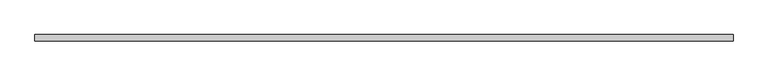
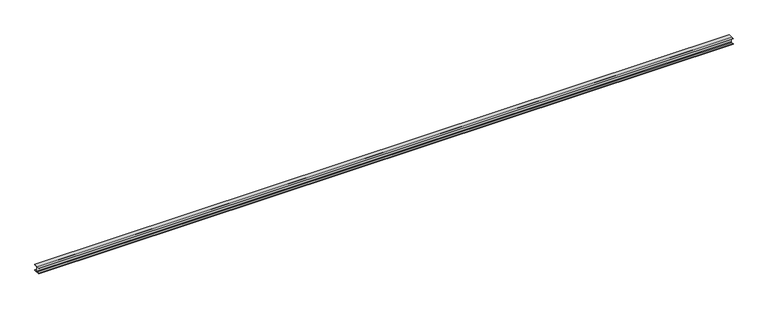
"""IFC4 building model written with IfcOpenShell, lengths in millimetres: beam geometry, Membrure Haute 37771 : Membrure Haute 37771."""

import ifcopenshell
import ifcopenshell.guid

model = None  # the IFC model being written
_history = None  # IfcOwnerHistory: only IFC2X3 demands one
_inside = {}  # id of a spatial element -> (the spatial element, [elements in it])
_under = {}  # id of a project, library or spatial element -> (it, [spatial elements below it])
_declared = {}  # id of a project -> (the project, [libraries it declares])
_typed = {}  # id of a type object -> (the type object, [elements of that type])
_made_of = {}  # id of a material, layer set ... -> (it, [elements and type objects made of it])


def new_model(schema):
    """Start an empty IFC model of exactly this schema.

    Asked for "IFC4X3", IfcOpenShell would pick the latest addendum, in which some entities
    have other attributes; the version numbers below select the first issue.
    IFC2X3 requires an IfcOwnerHistory on every rooted entity: one is made here for all.
    """
    global model, _history
    if schema == "IFC4X3":
        model = ifcopenshell.file(schema_version=(4, 3, 0, 0))
    else:
        model = ifcopenshell.file(schema=schema)
    _inside.clear()
    _under.clear()
    _declared.clear()
    _typed.clear()
    _made_of.clear()
    _history = None
    if model.schema == "IFC2X3":
        org = make("IfcOrganization", Name="unknown")
        user = make(
            "IfcPersonAndOrganization",
            ThePerson=make("IfcPerson", FamilyName="unknown"),
            TheOrganization=org,
        )
        app = make(
            "IfcApplication",
            ApplicationDeveloper=org,
            Version="unknown",
            ApplicationFullName="unknown",
            ApplicationIdentifier="unknown",
        )
        _history = make(
            "IfcOwnerHistory",
            OwningUser=user,
            OwningApplication=app,
            ChangeAction="ADDED",
            CreationDate=0,
        )
    return model


def make(cls, **values):
    """One entity of the class cls with the attributes given. An attribute that is None is left unset."""
    return model.create_entity(
        cls, **{name: value for name, value in values.items() if value is not None}
    )


def rooted(cls, **values):
    """An entity with a GlobalId (a new one), such as an element, a storey or a relation."""
    return make(cls, GlobalId=ifcopenshell.guid.new(), OwnerHistory=_history, **values)


def si_unit(unit_type, name, prefix=None):
    """IfcSIUnit, for example si_unit("LENGTHUNIT", "METRE", prefix="MILLI")."""
    return make("IfcSIUnit", UnitType=unit_type, Prefix=prefix, Name=name)


def assignment(units):
    """IfcUnitAssignment: the units of a project."""
    return None if units is None else make("IfcUnitAssignment", Units=units)


def point(xyz):
    """IfcCartesianPoint."""
    return None if xyz is None else make("IfcCartesianPoint", Coordinates=xyz)


def direction(xyz):
    """IfcDirection."""
    return None if xyz is None else make("IfcDirection", DirectionRatios=xyz)


def frame(location, z_axis=None, x_axis=None):
    """IfcAxis2Placement3D, a coordinate frame: its origin and axes. An axis left out is left unset."""
    return make(
        "IfcAxis2Placement3D",
        Location=point(location),
        Axis=direction(z_axis),
        RefDirection=direction(x_axis),
    )


def origin():
    """The frame at (0, 0, 0) with its axes left unset."""
    return frame((0.0, 0.0, 0.0))


def place(relative_to, where):
    """IfcLocalPlacement: puts the frame where relative to a parent placement (None: the world)."""
    return make(
        "IfcLocalPlacement", PlacementRelTo=relative_to, RelativePlacement=where
    )


def context(
    kind, dimensions, precision=None, world=None, true_north=None, identifier=None
):
    """IfcGeometricRepresentationContext, for example the 3D "Model" context."""
    return make(
        "IfcGeometricRepresentationContext",
        ContextIdentifier=identifier,
        ContextType=kind,
        CoordinateSpaceDimension=dimensions,
        Precision=precision,
        WorldCoordinateSystem=world,
        TrueNorth=true_north,
    )


def project(units=None, contexts=None):
    """IfcProject with its units and contexts."""
    return rooted(
        "IfcProject",
        Name="project",
        RepresentationContexts=contexts,
        UnitsInContext=assignment(units),
    )


def spatial(cls, under=None, at=None, **own):
    """A site, building, storey or space (cls), placed at a placement, below another one or the project."""
    s = rooted(cls, ObjectPlacement=at, **own)
    if under is not None:
        _under.setdefault(under.id(), (under, []))[1].append(s)
    return s


def polyline(points):
    """IfcPolyline through the points."""
    return make("IfcPolyline", Points=[point(p) for p in points])


def outline(outer, holes=None, kind="AREA"):
    """IfcArbitraryClosedProfileDef: a profile drawn as a closed curve; with holes, ...WithVoids."""
    if holes is None:
        return make("IfcArbitraryClosedProfileDef", ProfileType=kind, OuterCurve=outer)
    return make(
        "IfcArbitraryProfileDefWithVoids",
        ProfileType=kind,
        OuterCurve=outer,
        InnerCurves=holes,
    )


def extrude(swept, where, along, depth):
    """IfcExtrudedAreaSolid: the profile swept, set in the frame where, extruded along a direction by depth."""
    return make(
        "IfcExtrudedAreaSolid",
        SweptArea=swept,
        Position=where,
        ExtrudedDirection=direction(along),
        Depth=depth,
    )


def shape(context_of_items, identifier, shape_type, items):
    """IfcShapeRepresentation: the items that make up one representation, for example the "Body"."""
    return make(
        "IfcShapeRepresentation",
        ContextOfItems=context_of_items,
        RepresentationIdentifier=identifier,
        RepresentationType=shape_type,
        Items=items,
    )


def source(mapping_origin, context_of_items, identifier, shape_type, items):
    """IfcRepresentationMap: a shape defined once, which mapped items show again and again."""
    return make(
        "IfcRepresentationMap",
        MappingOrigin=mapping_origin,
        MappedRepresentation=shape(context_of_items, identifier, shape_type, items),
    )


def transform(
    local_origin,
    x_axis=None,
    y_axis=None,
    z_axis=None,
    scale=None,
    scale2=None,
    scale3=None,
    uniform=True,
):
    """IfcCartesianTransformationOperator3D, or its non-uniform kind. x_axis, y_axis, z_axis: its Axis1, 2, 3."""
    if uniform:
        return make(
            "IfcCartesianTransformationOperator3D",
            Axis1=direction(x_axis),
            Axis2=direction(y_axis),
            LocalOrigin=point(local_origin),
            Scale=scale,
            Axis3=direction(z_axis),
        )
    return make(
        "IfcCartesianTransformationOperator3DnonUniform",
        Axis1=direction(x_axis),
        Axis2=direction(y_axis),
        LocalOrigin=point(local_origin),
        Scale=scale,
        Axis3=direction(z_axis),
        Scale2=scale2,
        Scale3=scale3,
    )


def mapped(mapping_source, mapping_target):
    """IfcMappedItem: shows the shape of a source again, moved by a transform."""
    return make(
        "IfcMappedItem", MappingSource=mapping_source, MappingTarget=mapping_target
    )


def made_of(thing, what):
    """Note that an element or type object is made of a material, layer set ...; save() writes the relation."""
    if what is not None:
        _made_of.setdefault(what.id(), (what, []))[1].append(thing)
    return thing


def element(
    cls,
    number,
    at=None,
    inside=None,
    cuts=None,
    type_object=None,
    material=None,
    context=None,
    identifier="Body",
    shape_type=None,
    held_by="IfcProductDefinitionShape",
    body=None,
    shapes=None,
    **own,
):
    """One element of the class cls, such as IfcWall. Its Tag is "e" and its number.

    at: its placement. inside: the storey or other place that contains it. cuts: it is an
    opening in that element (IfcRelVoidsElement). A single representation is given by context,
    identifier, shape_type and body (its items); several are given by shapes. held_by: the class
    of the entity that holds the representations. save() writes the other relations.
    """
    e = rooted(cls, Tag="e%d" % number, ObjectPlacement=at, **own)
    if body is not None:
        shapes = [shape(context, identifier, shape_type, body)]
    if shapes is not None:
        e.Representation = make(held_by, Representations=shapes)
    if inside is not None:
        _inside.setdefault(inside.id(), (inside, []))[1].append(e)
    if cuts is not None:
        rooted(
            "IfcRelVoidsElement", RelatingBuildingElement=cuts, RelatedOpeningElement=e
        )
    if type_object is not None:
        _typed.setdefault(type_object.id(), (type_object, []))[1].append(e)
    return made_of(e, material)


def aggregate(whole, parts):
    """IfcRelAggregates: a whole, such as a stair, and the parts it consists of."""
    return rooted("IfcRelAggregates", RelatingObject=whole, RelatedObjects=parts)


def save(model, path):
    """Write the relations noted so far, then the file.

    IfcRelAggregates (storeys below a building ...), IfcRelContainedInSpatialStructure (elements
    in a storey), IfcRelDefinesByType, IfcRelAssociatesMaterial and IfcRelDeclares: one each for
    every whole, place, type object, material and project.
    """
    for whole, parts in _under.values():
        aggregate(whole, parts)
    for where, things in _inside.values():
        rooted(
            "IfcRelContainedInSpatialStructure",
            RelatedElements=things,
            RelatingStructure=where,
        )
    for kind, things in _typed.values():
        rooted("IfcRelDefinesByType", RelatedObjects=things, RelatingType=kind)
    for what, things in _made_of.values():
        rooted("IfcRelAssociatesMaterial", RelatedObjects=things, RelatingMaterial=what)
    for by, libraries in _declared.values():
        rooted("IfcRelDeclares", RelatingContext=by, RelatedDefinitions=libraries)
    model.write(path)


def beam_78534547(model_context):
    return source(origin(), model_context, "Body", "SweptSolid", [
        extrude(outline(polyline([(-12730.0, 12161.758392), (-12785.25, 12161.758392), (-12797.25, 12149.758392), (-12797.25, 12057.758392), (-12785.25, 12045.758392), (-12730.0, 12045.758392), (-12730.0, 12037.258392), (-12870.0, 12037.258392), (-12870.0, 12045.758392), (-12814.75, 12045.758392), (-12802.75, 12057.758392), (-12802.75, 12149.758392), (-12814.75, 12161.758392), (-12870.0, 12161.758392), (-12870.0, 12170.258392), (-12730.0, 12170.258392), (-12730.0, 12161.758392)])), frame((179.9999999, 0.0, 0.0), z_axis=(1.0, 0.0, 0.0), x_axis=(0.0, 1.0, 0.0)), (0.0, 0.0, 1.0), 15210.0),
    ])


if __name__ == "__main__":
    model = new_model("IFC4")
    model_context = context("Model", 3, world=origin())
    ifc_project = project(units=[si_unit("LENGTHUNIT", "METRE", prefix="MILLI")], contexts=[model_context])
    site = spatial("IfcSite", under=ifc_project)
    building = spatial("IfcBuilding", under=site)
    placement = place(None, origin())
    beam_shape = beam_78534547(model_context)
    element("IfcBeam", 1, ObjectType="Membrure Haute 37771 : Membrure Haute 37771", at=placement, inside=building, context=model_context, shape_type="MappedRepresentation", body=[
        mapped(beam_shape, transform((0.0, 0.0, 0.0), x_axis=(1.0, 0.0, 0.0), y_axis=(0.0, 1.0, 0.0), z_axis=(0.0, 0.0, 1.0))),
    ])
    save(model, "model.ifc")
